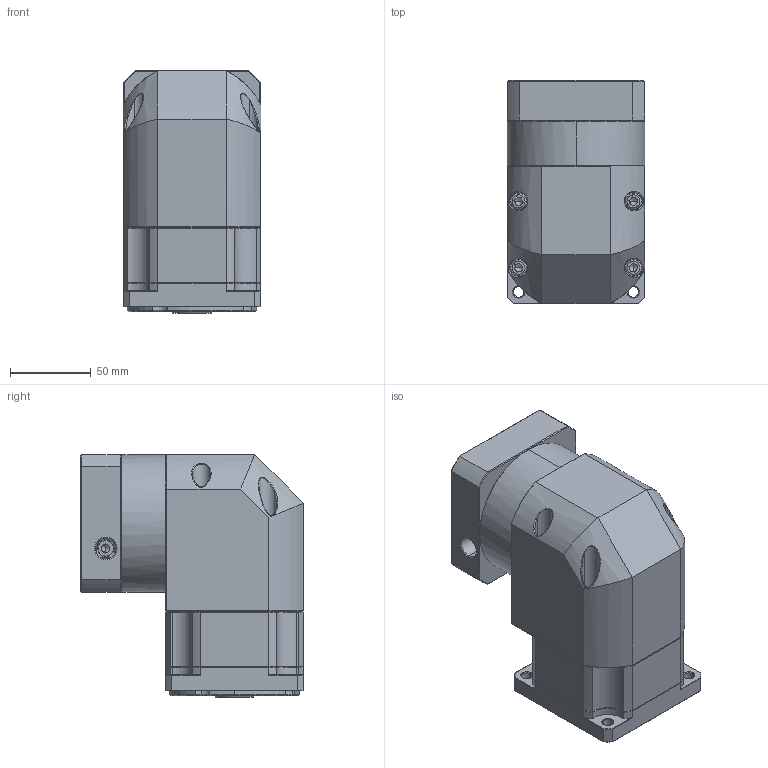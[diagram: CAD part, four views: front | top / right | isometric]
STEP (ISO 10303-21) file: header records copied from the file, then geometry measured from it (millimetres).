
FILE_DESCRIPTION (( 'STEP AP214' ), '1' );
FILE_NAME ('ZBR090-K15-L1-P2-19-70-90-M5.step', '2023-08-19T02:09:17', ( '' ), ( '' ), 'SwSTEP 2.0', 'SolidWorks 2016', '' );
FILE_SCHEMA (( 'AUTOMOTIVE_DESIGN' ));
Length unit declared in the file: millimetre
Products named in the file (1): ZBR090-K15-L1-P2-19-70-90-M5
Bounding box: 85 x 137.6 x 150 mm (x, y, z)
Volume: 1169713.3 mm3; surface area: 127783.8 mm2
Topology: 5 solids, 5 shells, 2342 faces, 6120 edges, 3869 vertices
Faces by surface type: plane 1150, bspline 414, cylinder 409, cone 345, torus 24
Entity records: 123765 total; most frequent: CARTESIAN_POINT 43867, ORIENTED_EDGE 12168, DIRECTION 9713, EDGE_CURVE 6084, LINE 3909, VECTOR 3909, VERTEX_POINT 3869, AXIS2_PLACEMENT_3D 2902
